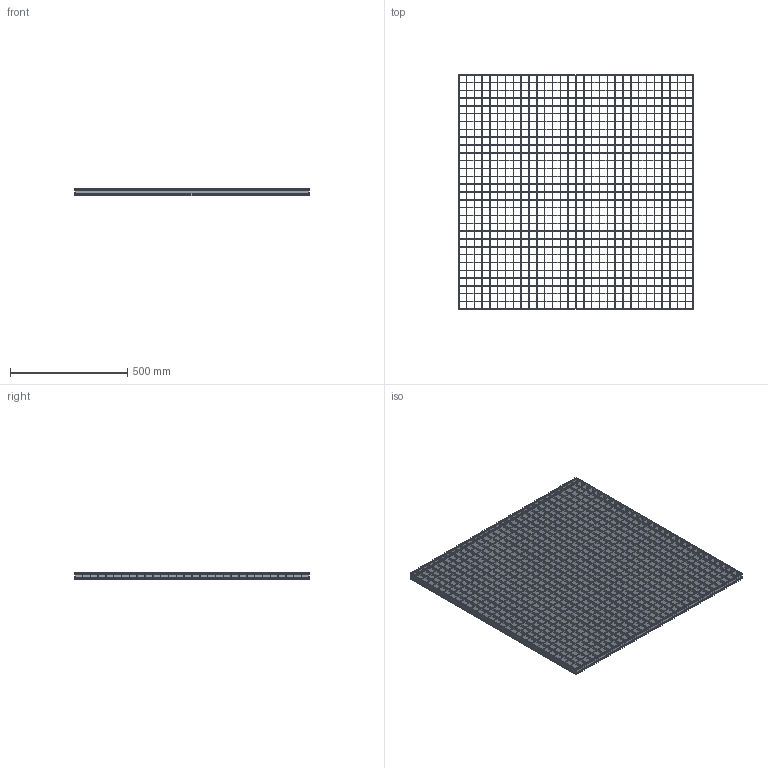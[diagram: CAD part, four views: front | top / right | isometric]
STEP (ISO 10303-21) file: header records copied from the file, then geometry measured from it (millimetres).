
FILE_DESCRIPTION(/* description */ ('STEP AP242','CAx-IF Rec.Pracs.---Representation and Presentation of Product Manufacturing Information (PMI)---4.0---2014-10-13','CAx-IF Rec.Pracs.---3D Tessellated Geometry---0.4---2014-09-14','2;1'),/* implementation_level */ '2;1');
FILE_NAME(/* name */ 'Lichtgitter_Pressure_locked_gratings PX3 230-33-2-1-1-1000-1000_(350_0)',/* time_stamp */ '2026-04-23T08:38:00+02:00',/* author */ ('License CC BY-ND 4.0'),/* organization */ ('CADENAS'),/* preprocessor_version */ 'ST-DEVELOPER v20',/* originating_system */ 'PARTsolutions',/* authorisation */ ' ');
FILE_SCHEMA (('AP242_MANAGED_MODEL_BASED_3D_ENGINEERING_MIM_LF { 1 0 10303 442 1 1 4 }'));
Length unit declared in the file: millimetre
Products named in the file (5): Lichtgitter_Pressure_locked_gratings PX3 230-33-2-1-1-1000-1000_(350_
0); Lichtgitter PX3 230-33-2_(Pressroste_350_1_1000_1000)_VERTICAL; Lichtgitter PX3 230-33-2_(Pressroste_350_1_1000_1000)_HORIZONTAL_C; Lichtgitter PX3 230-33-2_(Pressroste_350_1_1000_1000)_HORIZONTAL; Lichtgitter PX3 230-33-2_(Pressroste_350_1_1000_1000)_VERTICAL_C
Assembly tree (62 placements, depth 2):
  Lichtgitter_Pressure_locked_gratings PX3 230-33-2-1-1-1000-1000_(350_
0)
    Lichtgitter PX3 230-33-2_(Pressroste_350_1_1000_1000)_VERTICAL  x2
    Lichtgitter PX3 230-33-2_(Pressroste_350_1_1000_1000)_HORIZONTAL_C  x29
    Lichtgitter PX3 230-33-2_(Pressroste_350_1_1000_1000)_HORIZONTAL  x2
    Lichtgitter PX3 230-33-2_(Pressroste_350_1_1000_1000)_VERTICAL_C  x29
Bounding box: 1000 x 1000 x 30 mm (x, y, z)
Volume: 2549515 mm3; surface area: 2821826.2 mm2
Topology: 62 solids, 62 shells, 3784 faces, 10980 edges, 7320 vertices
Faces by surface type: plane 3752, cylinder 32
Entity records: 5847 total; most frequent: CARTESIAN_POINT 1007, DIRECTION 954, ORIENTED_EDGE 936, EDGE_CURVE 468, LINE 436, VECTOR 436, VERTEX_POINT 312, AXIS2_PLACEMENT_3D 259
